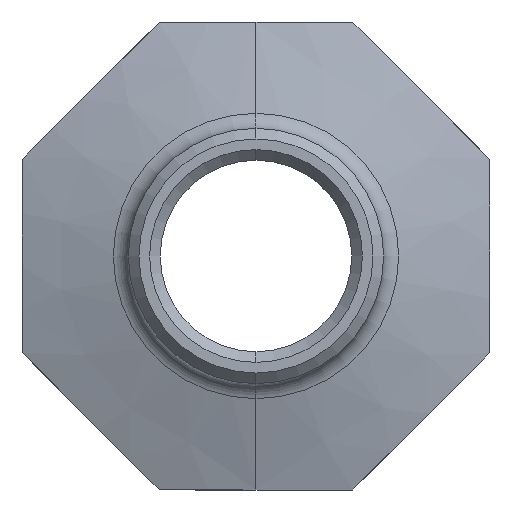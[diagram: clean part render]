
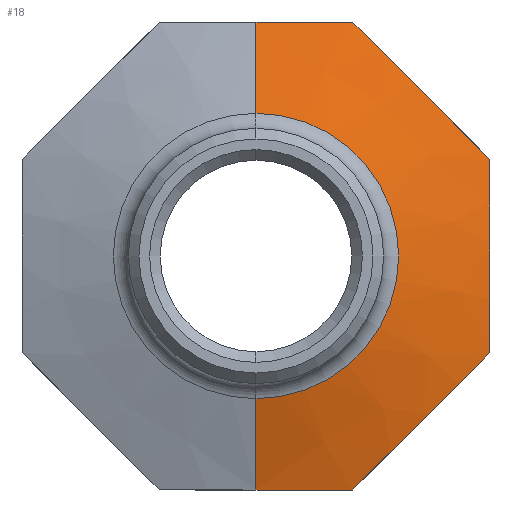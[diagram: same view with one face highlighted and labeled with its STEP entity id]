
A CAD part, front view. The second image highlights one B-rep face of the part: STEP entity #18.
In plain terms, the highlighted conical face has half-angle 73 degrees and reference radius 6.708 mm.
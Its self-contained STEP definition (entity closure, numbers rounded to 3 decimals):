
#10 = ORIENTED_EDGE ( 'NONE', *, *, #478, .F. ) ;
#15 = ORIENTED_EDGE ( 'NONE', *, *, #689, .F. ) ;
#18 = ADVANCED_FACE ( 'NONE', ( #811 ), #328, .T. ) ;
#40 = CIRCLE ( 'NONE', #43, 6.708 ) ;
#43 = AXIS2_PLACEMENT_3D ( 'NONE', #694, #687, #82 ) ;
#65 = B_SPLINE_CURVE_WITH_KNOTS ( 'NONE', 3,
 ( #869, #913, #842, #1032 ),
 .UNSPECIFIED., .F., .F.,
 ( 4, 4 ),
 ( 0.004, 0.009 ),
 .UNSPECIFIED. ) ;
#71 = CARTESIAN_POINT ( 'NONE',  ( 9.926, 23.628, -5.63 ) ) ;
#82 = DIRECTION ( 'NONE',  ( 0., 0., -1. ) ) ;
#111 = ORIENTED_EDGE ( 'NONE', *, *, #305, .T. ) ;
#118 = EDGE_CURVE ( 'NONE', #708, #194, #782, .T. ) ;
#134 = DIRECTION ( 'NONE',  ( 0., 0.292, 0.956 ) ) ;
#158 = VECTOR ( 'NONE', #955, 1000. ) ;
#168 = CARTESIAN_POINT ( 'NONE',  ( 11., 23.528, -0.745 ) ) ;
#194 = VERTEX_POINT ( 'NONE', #533 ) ;
#231 = LINE ( 'NONE', #798, #760 ) ;
#236 = CARTESIAN_POINT ( 'NONE',  ( 1.525, 23.529, 11. ) ) ;
#239 = CARTESIAN_POINT ( 'NONE',  ( 0., 22.216, -6.708 ) ) ;
#244 = CARTESIAN_POINT ( 'NONE',  ( 7.778, 23.429, 7.778 ) ) ;
#252 = CARTESIAN_POINT ( 'NONE',  ( 11., 23.806, 4.556 ) ) ;
#273 = CARTESIAN_POINT ( 'NONE',  ( 11., 23.806, 4.556 ) ) ;
#287 = CARTESIAN_POINT ( 'NONE',  ( 3.043, 23.629, 11. ) ) ;
#290 = CARTESIAN_POINT ( 'NONE',  ( 4.556, 23.806, 11. ) ) ;
#305 = EDGE_CURVE ( 'NONE', #861, #814, #497, .T. ) ;
#328 = CONICAL_SURFACE ( 'NONE', #1016, 6.708, 1.274 ) ;
#337 = CARTESIAN_POINT ( 'NONE',  ( 9.926, 23.628, 5.63 ) ) ;
#364 = ORIENTED_EDGE ( 'NONE', *, *, #948, .F. ) ;
#374 = CARTESIAN_POINT ( 'NONE',  ( 11., 23.806, -4.556 ) ) ;
#418 = VERTEX_POINT ( 'NONE', #527 ) ;
#435 = CARTESIAN_POINT ( 'NONE',  ( 5.63, 23.628, -9.926 ) ) ;
#464 = CARTESIAN_POINT ( 'NONE',  ( 5.63, 23.628, 9.926 ) ) ;
#478 = EDGE_CURVE ( 'NONE', #418, #708, #231, .T. ) ;
#480 = CARTESIAN_POINT ( 'NONE',  ( 4.556, 23.806, -11. ) ) ;
#497 = LINE ( 'NONE', #239, #158 ) ;
#527 = CARTESIAN_POINT ( 'NONE',  ( 0., 22.216, 6.708 ) ) ;
#533 = CARTESIAN_POINT ( 'NONE',  ( 4.556, 23.806, 11. ) ) ;
#541 = CARTESIAN_POINT ( 'NONE',  ( 0., 22.216, -6.708 ) ) ;
#559 = ORIENTED_EDGE ( 'NONE', *, *, #757, .F. ) ;
#581 = B_SPLINE_CURVE_WITH_KNOTS ( 'NONE', 3,
 ( #252, #668, #663, #168, #940, #672, #620, #919 ),
 .UNSPECIFIED., .F., .F.,
 ( 4, 2, 2, 4 ),
 ( 0.004, 0.009, 0.011, 0.013 ),
 .UNSPECIFIED. ) ;
#606 = CARTESIAN_POINT ( 'NONE',  ( 0., 23.529, -11. ) ) ;
#620 = CARTESIAN_POINT ( 'NONE',  ( 11., 23.717, -3.796 ) ) ;
#624 = CARTESIAN_POINT ( 'NONE',  ( 0., 23.529, 11. ) ) ;
#663 = CARTESIAN_POINT ( 'NONE',  ( 11., 23.529, 1.535 ) ) ;
#668 = CARTESIAN_POINT ( 'NONE',  ( 11., 23.629, 3.048 ) ) ;
#672 = CARTESIAN_POINT ( 'NONE',  ( 11., 23.647, -3.031 ) ) ;
#684 = VERTEX_POINT ( 'NONE', #846 ) ;
#687 = DIRECTION ( 'NONE',  ( 0., -1., 0. ) ) ;
#689 = EDGE_CURVE ( 'NONE', #194, #856, #724, .T. ) ;
#693 = EDGE_CURVE ( 'NONE', #684, #814, #65, .T. ) ;
#694 = CARTESIAN_POINT ( 'NONE',  ( 0., 22.216, 0. ) ) ;
#699 = CARTESIAN_POINT ( 'NONE',  ( 11., 23.806, 4.556 ) ) ;
#704 = CARTESIAN_POINT ( 'NONE',  ( 7.778, 23.429, -7.778 ) ) ;
#708 = VERTEX_POINT ( 'NONE', #1045 ) ;
#724 = B_SPLINE_CURVE_WITH_KNOTS ( 'NONE', 3,
 ( #850, #464, #244, #337, #699 ),
 .UNSPECIFIED., .F., .F.,
 ( 4, 1, 4 ),
 ( 0., 0.005, 0.009 ),
 .UNSPECIFIED. ) ;
#741 = EDGE_LOOP ( 'NONE', ( #559, #111, #902, #364, #779, #15, #771, #10 ) ) ;
#757 = EDGE_CURVE ( 'NONE', #861, #418, #40, .T. ) ;
#760 = VECTOR ( 'NONE', #134, 1000. ) ;
#771 = ORIENTED_EDGE ( 'NONE', *, *, #118, .F. ) ;
#779 = ORIENTED_EDGE ( 'NONE', *, *, #832, .F. ) ;
#782 = B_SPLINE_CURVE_WITH_KNOTS ( 'NONE', 3,
 ( #624, #236, #287, #290 ),
 .UNSPECIFIED., .F., .F.,
 ( 4, 4 ),
 ( 0.015, 0.02 ),
 .UNSPECIFIED. ) ;
#798 = CARTESIAN_POINT ( 'NONE',  ( 0., 22.216, 6.708 ) ) ;
#811 = FACE_OUTER_BOUND ( 'NONE', #741, .T. ) ;
#814 = VERTEX_POINT ( 'NONE', #606 ) ;
#832 = EDGE_CURVE ( 'NONE', #856, #1017, #581, .T. ) ;
#842 = CARTESIAN_POINT ( 'NONE',  ( 1.525, 23.529, -11. ) ) ;
#846 = CARTESIAN_POINT ( 'NONE',  ( 4.556, 23.806, -11. ) ) ;
#850 = CARTESIAN_POINT ( 'NONE',  ( 4.556, 23.806, 11. ) ) ;
#856 = VERTEX_POINT ( 'NONE', #273 ) ;
#861 = VERTEX_POINT ( 'NONE', #541 ) ;
#869 = CARTESIAN_POINT ( 'NONE',  ( 4.556, 23.806, -11. ) ) ;
#902 = ORIENTED_EDGE ( 'NONE', *, *, #693, .F. ) ;
#913 = CARTESIAN_POINT ( 'NONE',  ( 3.043, 23.629, -11. ) ) ;
#915 = DIRECTION ( 'NONE',  ( 0., 0., 1. ) ) ;
#919 = CARTESIAN_POINT ( 'NONE',  ( 11., 23.806, -4.556 ) ) ;
#940 = CARTESIAN_POINT ( 'NONE',  ( 11., 23.552, -1.506 ) ) ;
#948 = EDGE_CURVE ( 'NONE', #1017, #684, #958, .T. ) ;
#953 = DIRECTION ( 'NONE',  ( 0., 1., 0. ) ) ;
#955 = DIRECTION ( 'NONE',  ( 0., 0.292, -0.956 ) ) ;
#958 = B_SPLINE_CURVE_WITH_KNOTS ( 'NONE', 3,
 ( #1022, #71, #704, #435, #480 ),
 .UNSPECIFIED., .F., .F.,
 ( 4, 1, 4 ),
 ( 0., 0.005, 0.009 ),
 .UNSPECIFIED. ) ;
#990 = CARTESIAN_POINT ( 'NONE',  ( 0., 22.216, 0. ) ) ;
#1016 = AXIS2_PLACEMENT_3D ( 'NONE', #990, #953, #915 ) ;
#1017 = VERTEX_POINT ( 'NONE', #374 ) ;
#1022 = CARTESIAN_POINT ( 'NONE',  ( 11., 23.806, -4.556 ) ) ;
#1032 = CARTESIAN_POINT ( 'NONE',  ( 0., 23.529, -11. ) ) ;
#1045 = CARTESIAN_POINT ( 'NONE',  ( 0., 23.529, 11. ) ) ;
